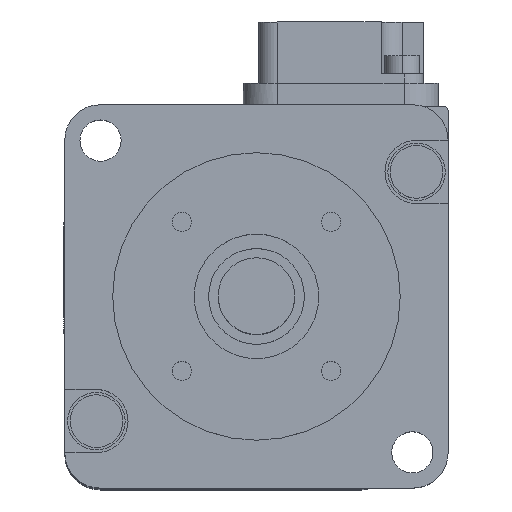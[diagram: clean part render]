
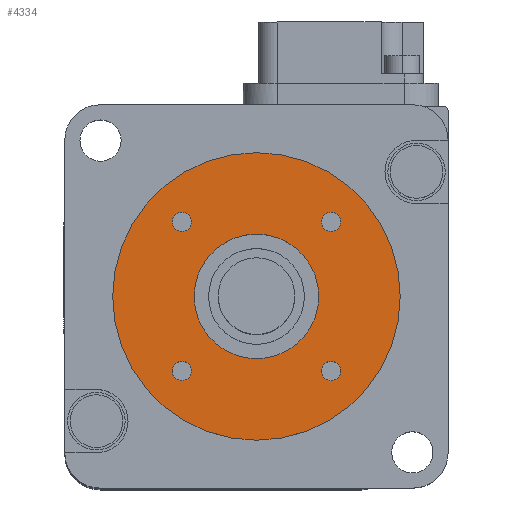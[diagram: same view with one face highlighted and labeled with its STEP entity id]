
A CAD part, top view. The second image highlights one B-rep face of the part: STEP entity #4334.
In plain terms, the highlighted planar face has unit normal (0, 0, 1).
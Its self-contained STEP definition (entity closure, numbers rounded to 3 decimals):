
#815 = VERTEX_POINT ( 'NONE', #6765 ) ;
#828 = EDGE_CURVE ( 'NONE', #815, #829, #6743, .T. ) ;
#829 = VERTEX_POINT ( 'NONE', #6738 ) ;
#3701 = VERTEX_POINT ( 'NONE', #11947 ) ;
#3703 = EDGE_CURVE ( 'NONE', #3704, #3701, #11946, .T. ) ;
#3704 = VERTEX_POINT ( 'NONE', #11941 ) ;
#3723 = EDGE_CURVE ( 'NONE', #3724, #3809, #11970, .T. ) ;
#3724 = VERTEX_POINT ( 'NONE', #11965 ) ;
#3731 = VERTEX_POINT ( 'NONE', #12018 ) ;
#3733 = EDGE_CURVE ( 'NONE', #3734, #3731, #12017, .T. ) ;
#3734 = VERTEX_POINT ( 'NONE', #12012 ) ;
#3784 = VERTEX_POINT ( 'NONE', #12103 ) ;
#3786 = EDGE_CURVE ( 'NONE', #3787, #3784, #12102, .T. ) ;
#3787 = VERTEX_POINT ( 'NONE', #12097 ) ;
#3796 = VERTEX_POINT ( 'NONE', #12139 ) ;
#3798 = EDGE_CURVE ( 'NONE', #3799, #3796, #12138, .T. ) ;
#3799 = VERTEX_POINT ( 'NONE', #12133 ) ;
#3809 = VERTEX_POINT ( 'NONE', #12178 ) ;
#4296 = EDGE_CURVE ( 'NONE', #3809, #3724, #13051, .T. ) ;
#4334 = ADVANCED_FACE ( 'NONE', ( #13127, #13126, #13125, #13124, #13123, #13122 ), #13121, .T. ) ;
#4335 = EDGE_LOOP ( 'NONE', ( #4336, #4338 ) ) ;
#4336 = ORIENTED_EDGE ( 'NONE', *, *, #4337, .F. ) ;
#4337 = EDGE_CURVE ( 'NONE', #829, #815, #13116, .T. ) ;
#4338 = ORIENTED_EDGE ( 'NONE', *, *, #828, .F. ) ;
#4339 = EDGE_LOOP ( 'NONE', ( #4391, #4392 ) ) ;
#4343 = EDGE_CURVE ( 'NONE', #3784, #3787, #13179, .T. ) ;
#4355 = EDGE_CURVE ( 'NONE', #3796, #3799, #13155, .T. ) ;
#4362 = EDGE_CURVE ( 'NONE', #3731, #3734, #13148, .T. ) ;
#4378 = ORIENTED_EDGE ( 'NONE', *, *, #3703, .T. ) ;
#4379 = ORIENTED_EDGE ( 'NONE', *, *, #4380, .T. ) ;
#4380 = EDGE_CURVE ( 'NONE', #3701, #3704, #13234, .T. ) ;
#4391 = ORIENTED_EDGE ( 'NONE', *, *, #3786, .T. ) ;
#4392 = ORIENTED_EDGE ( 'NONE', *, *, #4343, .T. ) ;
#4393 = EDGE_LOOP ( 'NONE', ( #4394, #4395 ) ) ;
#4394 = ORIENTED_EDGE ( 'NONE', *, *, #3733, .T. ) ;
#4395 = ORIENTED_EDGE ( 'NONE', *, *, #4362, .T. ) ;
#4396 = EDGE_LOOP ( 'NONE', ( #4397, #4398 ) ) ;
#4397 = ORIENTED_EDGE ( 'NONE', *, *, #3798, .T. ) ;
#4398 = ORIENTED_EDGE ( 'NONE', *, *, #4355, .T. ) ;
#4399 = EDGE_LOOP ( 'NONE', ( #4400, #4401 ) ) ;
#4400 = ORIENTED_EDGE ( 'NONE', *, *, #3723, .T. ) ;
#4401 = ORIENTED_EDGE ( 'NONE', *, *, #4296, .T. ) ;
#4402 = EDGE_LOOP ( 'NONE', ( #4378, #4379 ) ) ;
#6738 = CARTESIAN_POINT ( 'NONE',  ( 6.5, 0., 2.5 ) ) ;
#6739 = DIRECTION ( 'NONE',  ( 1., 0., 0. ) ) ;
#6740 = DIRECTION ( 'NONE',  ( 0., 0., 1. ) ) ;
#6741 = CARTESIAN_POINT ( 'NONE',  ( 0., 0., 2.5 ) ) ;
#6742 = AXIS2_PLACEMENT_3D ( 'NONE', #6741, #6740, #6739 ) ;
#6743 = CIRCLE ( 'NONE', #6742, 6.5 ) ;
#6765 = CARTESIAN_POINT ( 'NONE',  ( -6.5, 0., 2.5 ) ) ;
#11941 = CARTESIAN_POINT ( 'NONE',  ( 15., 0., 2.5 ) ) ;
#11942 = DIRECTION ( 'NONE',  ( 1., 0., 0. ) ) ;
#11943 = DIRECTION ( 'NONE',  ( 0., 0., 1. ) ) ;
#11944 = CARTESIAN_POINT ( 'NONE',  ( 0., 0., 2.5 ) ) ;
#11945 = AXIS2_PLACEMENT_3D ( 'NONE', #11944, #11943, #11942 ) ;
#11946 = CIRCLE ( 'NONE', #11945, 15. ) ;
#11947 = CARTESIAN_POINT ( 'NONE',  ( -15., 0., 2.5 ) ) ;
#11965 = CARTESIAN_POINT ( 'NONE',  ( 8.778, 7.778, 2.5 ) ) ;
#11966 = DIRECTION ( 'NONE',  ( 1., 0., 0. ) ) ;
#11967 = DIRECTION ( 'NONE',  ( 0., 0., -1. ) ) ;
#11968 = CARTESIAN_POINT ( 'NONE',  ( 7.778, 7.778, 2.5 ) ) ;
#11969 = AXIS2_PLACEMENT_3D ( 'NONE', #11968, #11967, #11966 ) ;
#11970 = CIRCLE ( 'NONE', #11969, 1. ) ;
#12012 = CARTESIAN_POINT ( 'NONE',  ( -6.778, -7.778, 2.5 ) ) ;
#12013 = DIRECTION ( 'NONE',  ( 1., 0., 0. ) ) ;
#12014 = DIRECTION ( 'NONE',  ( 0., 0., -1. ) ) ;
#12015 = CARTESIAN_POINT ( 'NONE',  ( -7.778, -7.778, 2.5 ) ) ;
#12016 = AXIS2_PLACEMENT_3D ( 'NONE', #12015, #12014, #12013 ) ;
#12017 = CIRCLE ( 'NONE', #12016, 1. ) ;
#12018 = CARTESIAN_POINT ( 'NONE',  ( -8.778, -7.778, 2.5 ) ) ;
#12097 = CARTESIAN_POINT ( 'NONE',  ( 8.778, -7.778, 2.5 ) ) ;
#12098 = DIRECTION ( 'NONE',  ( 1., 0., 0. ) ) ;
#12099 = DIRECTION ( 'NONE',  ( 0., 0., -1. ) ) ;
#12100 = CARTESIAN_POINT ( 'NONE',  ( 7.778, -7.778, 2.5 ) ) ;
#12101 = AXIS2_PLACEMENT_3D ( 'NONE', #12100, #12099, #12098 ) ;
#12102 = CIRCLE ( 'NONE', #12101, 1. ) ;
#12103 = CARTESIAN_POINT ( 'NONE',  ( 6.778, -7.778, 2.5 ) ) ;
#12133 = CARTESIAN_POINT ( 'NONE',  ( -6.778, 7.778, 2.5 ) ) ;
#12134 = DIRECTION ( 'NONE',  ( 1., 0., 0. ) ) ;
#12135 = DIRECTION ( 'NONE',  ( 0., 0., -1. ) ) ;
#12136 = CARTESIAN_POINT ( 'NONE',  ( -7.778, 7.778, 2.5 ) ) ;
#12137 = AXIS2_PLACEMENT_3D ( 'NONE', #12136, #12135, #12134 ) ;
#12138 = CIRCLE ( 'NONE', #12137, 1. ) ;
#12139 = CARTESIAN_POINT ( 'NONE',  ( -8.778, 7.778, 2.5 ) ) ;
#12178 = CARTESIAN_POINT ( 'NONE',  ( 6.778, 7.778, 2.5 ) ) ;
#13048 = DIRECTION ( 'NONE',  ( 1., 0., 0. ) ) ;
#13049 = DIRECTION ( 'NONE',  ( 0., 0., -1. ) ) ;
#13050 = AXIS2_PLACEMENT_3D ( 'NONE', #13056, #13049, #13048 ) ;
#13051 = CIRCLE ( 'NONE', #13050, 1. ) ;
#13056 = CARTESIAN_POINT ( 'NONE',  ( 7.778, 7.778, 2.5 ) ) ;
#13112 = DIRECTION ( 'NONE',  ( 1., 0., 0. ) ) ;
#13113 = DIRECTION ( 'NONE',  ( 0., 0., 1. ) ) ;
#13114 = CARTESIAN_POINT ( 'NONE',  ( 0., 0., 2.5 ) ) ;
#13115 = AXIS2_PLACEMENT_3D ( 'NONE', #13114, #13113, #13112 ) ;
#13116 = CIRCLE ( 'NONE', #13115, 6.5 ) ;
#13117 = DIRECTION ( 'NONE',  ( 0., 1., 0. ) ) ;
#13118 = DIRECTION ( 'NONE',  ( 0., 0., 1. ) ) ;
#13119 = CARTESIAN_POINT ( 'NONE',  ( 15.6, -15.6, 2.5 ) ) ;
#13120 = AXIS2_PLACEMENT_3D ( 'NONE', #13119, #13118, #13117 ) ;
#13121 = PLANE ( 'NONE',  #13120 ) ;
#13122 = FACE_OUTER_BOUND ( 'NONE', #4402, .T. ) ;
#13123 = FACE_BOUND ( 'NONE', #4399, .T. ) ;
#13124 = FACE_BOUND ( 'NONE', #4396, .T. ) ;
#13125 = FACE_BOUND ( 'NONE', #4393, .T. ) ;
#13126 = FACE_BOUND ( 'NONE', #4339, .T. ) ;
#13127 = FACE_BOUND ( 'NONE', #4335, .T. ) ;
#13148 = CIRCLE ( 'NONE', #13210, 1. ) ;
#13151 = DIRECTION ( 'NONE',  ( 1., 0., 0. ) ) ;
#13152 = DIRECTION ( 'NONE',  ( 0., 0., -1. ) ) ;
#13153 = CARTESIAN_POINT ( 'NONE',  ( -7.778, 7.778, 2.5 ) ) ;
#13154 = AXIS2_PLACEMENT_3D ( 'NONE', #13153, #13152, #13151 ) ;
#13155 = CIRCLE ( 'NONE', #13154, 1. ) ;
#13175 = DIRECTION ( 'NONE',  ( 1., 0., 0. ) ) ;
#13176 = DIRECTION ( 'NONE',  ( 0., 0., -1. ) ) ;
#13177 = CARTESIAN_POINT ( 'NONE',  ( 7.778, -7.778, 2.5 ) ) ;
#13178 = AXIS2_PLACEMENT_3D ( 'NONE', #13177, #13176, #13175 ) ;
#13179 = CIRCLE ( 'NONE', #13178, 1. ) ;
#13207 = DIRECTION ( 'NONE',  ( 1., 0., 0. ) ) ;
#13208 = DIRECTION ( 'NONE',  ( 0., 0., -1. ) ) ;
#13209 = CARTESIAN_POINT ( 'NONE',  ( -7.778, -7.778, 2.5 ) ) ;
#13210 = AXIS2_PLACEMENT_3D ( 'NONE', #13209, #13208, #13207 ) ;
#13231 = DIRECTION ( 'NONE',  ( 1., 0., 0. ) ) ;
#13232 = DIRECTION ( 'NONE',  ( 0., 0., 1. ) ) ;
#13233 = AXIS2_PLACEMENT_3D ( 'NONE', #13240, #13232, #13231 ) ;
#13234 = CIRCLE ( 'NONE', #13233, 15. ) ;
#13240 = CARTESIAN_POINT ( 'NONE',  ( 0., 0., 2.5 ) ) ;
